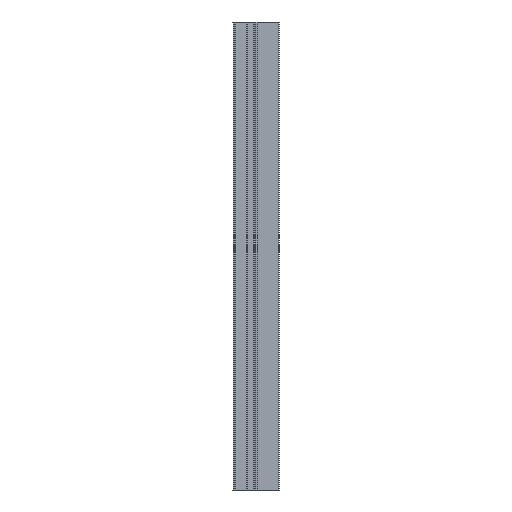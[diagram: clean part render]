
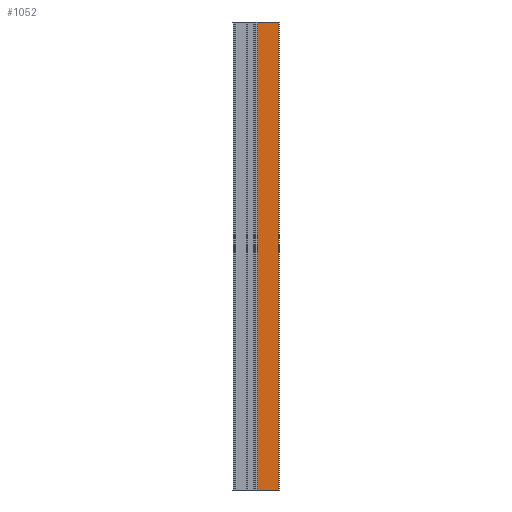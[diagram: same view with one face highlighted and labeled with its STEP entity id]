
A CAD part, left-side view. The second image highlights one B-rep face of the part: STEP entity #1052.
In plain terms, the highlighted planar face has unit normal (-1, 0, 0).
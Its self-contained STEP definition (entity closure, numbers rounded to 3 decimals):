
#13 = LINE ( 'NONE', #318, #1436 ) ;
#35 = CARTESIAN_POINT ( 'NONE',  ( 4899.855, -1240.296, -2879.2 ) ) ;
#143 = CARTESIAN_POINT ( 'NONE',  ( 4899.855, -1189.989, -3115.2 ) ) ;
#182 = CARTESIAN_POINT ( 'NONE',  ( 4899.855, -1252.962, -3115.2 ) ) ;
#251 = EDGE_CURVE ( 'NONE', #1124, #609, #989, .T. ) ;
#277 = ORIENTED_EDGE ( 'NONE', *, *, #1352, .T. ) ;
#318 = CARTESIAN_POINT ( 'NONE',  ( 4899.855, -1252.962, -2015.2 ) ) ;
#340 = EDGE_CURVE ( 'NONE', #609, #1038, #631, .T. ) ;
#359 = DIRECTION ( 'NONE',  ( 0., 0., 1. ) ) ;
#397 = DIRECTION ( 'NONE',  ( 0., 1., 0. ) ) ;
#426 = CARTESIAN_POINT ( 'NONE',  ( 4899.855, -1239.396, -3422.85 ) ) ;
#469 = PLANE ( 'NONE',  #1416 ) ;
#492 = DIRECTION ( 'NONE',  ( -1., 0., 0. ) ) ;
#514 = ORIENTED_EDGE ( 'NONE', *, *, #251, .F. ) ;
#539 = VECTOR ( 'NONE', #397, 1000. ) ;
#556 = EDGE_CURVE ( 'NONE', #1124, #1376, #13, .T. ) ;
#605 = VECTOR ( 'NONE', #778, 1000. ) ;
#609 = VERTEX_POINT ( 'NONE', #726 ) ;
#610 = CARTESIAN_POINT ( 'NONE',  ( 4899.855, -1239.396, -2015.2 ) ) ;
#629 = ORIENTED_EDGE ( 'NONE', *, *, #340, .F. ) ;
#631 = LINE ( 'NONE', #182, #539 ) ;
#726 = CARTESIAN_POINT ( 'NONE',  ( 4899.855, -1239.396, -3115.2 ) ) ;
#778 = DIRECTION ( 'NONE',  ( 0., 0., -1. ) ) ;
#892 = CARTESIAN_POINT ( 'NONE',  ( 4899.855, -1189.989, -2015.2 ) ) ;
#930 = EDGE_LOOP ( 'NONE', ( #1308, #277, #629, #514 ) ) ;
#989 = LINE ( 'NONE', #426, #605 ) ;
#1038 = VERTEX_POINT ( 'NONE', #143 ) ;
#1039 = DIRECTION ( 'NONE',  ( 0., 0., -1. ) ) ;
#1052 = ADVANCED_FACE ( 'NONE', ( #1277 ), #469, .T. ) ;
#1124 = VERTEX_POINT ( 'NONE', #610 ) ;
#1150 = LINE ( 'NONE', #1157, #1197 ) ;
#1157 = CARTESIAN_POINT ( 'NONE',  ( 4899.855, -1189.989, -2879.2 ) ) ;
#1197 = VECTOR ( 'NONE', #1039, 1000. ) ;
#1277 = FACE_OUTER_BOUND ( 'NONE', #930, .T. ) ;
#1308 = ORIENTED_EDGE ( 'NONE', *, *, #556, .T. ) ;
#1352 = EDGE_CURVE ( 'NONE', #1376, #1038, #1150, .T. ) ;
#1376 = VERTEX_POINT ( 'NONE', #892 ) ;
#1416 = AXIS2_PLACEMENT_3D ( 'NONE', #35, #492, #359 ) ;
#1436 = VECTOR ( 'NONE', #1484, 1000. ) ;
#1484 = DIRECTION ( 'NONE',  ( 0., 1., 0. ) ) ;
